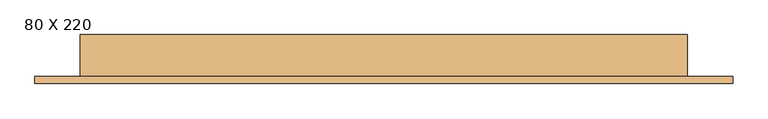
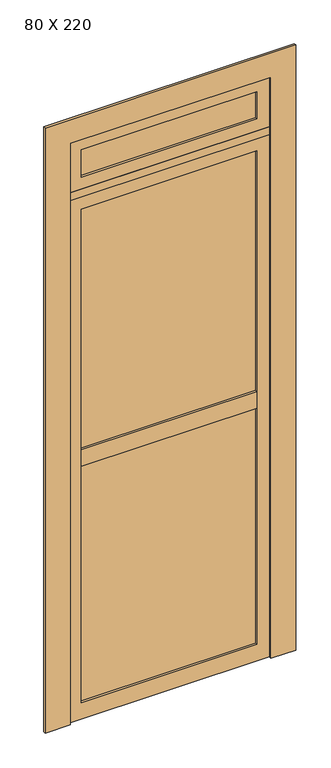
"""IFC4 building model written with IfcOpenShell, lengths in millimetres: door geometry, PORTA DE VIDRO COM ESQUADRIA DE ABRIR - 1 FOLHA + BANDEIRA FIXA - 1 FOLHA : 80 X 220."""

from ifc_helpers import new_model, si_unit, frame, origin, place, context, project, spatial, polyline, outline, extrude, faceted_brep, source, transform, mapped, element, save


def door_80_x_220_439348a2(model_context):
    return source(origin(), model_context, "Body", "SolidModel", [
        extrude(outline(polyline([(380.0, -59.5), (380.0, -65.5), (-320.0, -65.5), (-320.0, -59.5), (380.0, -59.5)])), frame((0.0, 0.0, 2285.0), z_axis=(0.0, 0.0, 1.0), x_axis=(1.0, 0.0, 0.0)), (0.0, 0.0, 1.0), 115.0),
        extrude(outline(polyline([(2450.0, 430.0), (2450.0, -370.0), (2235.0, -370.0), (2235.0, 430.0), (2450.0, 430.0)]), holes=[polyline([(2400.0, 380.0), (2285.0, 380.0), (2285.0, -320.0), (2400.0, -320.0), (2400.0, 380.0)])]), frame((0.0, -75.0, 0.0), z_axis=(0.0, 1.0, 0.0), x_axis=(0.0, 0.0, 1.0)), (0.0, 0.0, 1.0), 25.0),
        extrude(outline(polyline([(-320.0, -50.0), (380.0, -50.0), (380.0, -75.0), (-320.0, -75.0), (-320.0, -50.0)])), frame((0.0, 0.0, 1065.0), z_axis=(0.0, 0.0, 1.0), x_axis=(1.0, 0.0, 0.0)), (0.0, 0.0, 1.0), 70.0),
        extrude(outline(polyline([(380.0, -59.5), (380.0, -65.5), (-320.0, -65.5), (-320.0, -59.5), (380.0, -59.5)])), frame((0.0, 0.0, 70.0), z_axis=(0.0, 0.0, 1.0), x_axis=(1.0, 0.0, 0.0)), (0.0, 0.0, 1.0), 2080.0),
        extrude(outline(polyline([(2200.0, 430.0), (2200.0, -370.0), (0.0, -370.0), (0.0, 430.0), (2200.0, 430.0)]), holes=[polyline([(2150.0, 380.0), (70.0, 380.0), (70.0, -320.0), (2150.0, -320.0), (2150.0, 380.0)])]), frame((0.0, -75.0, 0.0), z_axis=(0.0, 1.0, 0.0), x_axis=(0.0, 0.0, 1.0)), (0.0, 0.0, 1.0), 25.0),
        extrude(outline(polyline([(2450.0, -370.0), (2450.0, 430.0), (0.0, 430.0), (0.0, 530.0), (2550.0, 530.0), (2550.0, -470.0), (0.0, -470.0), (0.0, -370.0), (2450.0, -370.0)])), frame((0.0, -85.0, 0.0), z_axis=(0.0, 1.0, 0.0), x_axis=(0.0, 0.0, 1.0)), (0.0, 0.0, 1.0), 10.0),
        faceted_brep([(-405.0, -15.0, 2485.0), (465.0, -15.0, 2485.0), (465.0, -15.0, 0.0), (420.0, -15.0, 0.0), (420.0, -15.0, 2190.0), (-360.0, -15.0, 2190.0), (-360.0, -15.0, 0.0), (-405.0, -15.0, 0.0), (-370.0, -15.0, 2450.0), (-370.0, -15.0, 2235.0), (430.0, -15.0, 2235.0), (430.0, -15.0, 2450.0), (465.0, -75.0, 2485.0), (465.0, -75.0, 0.0), (430.0, -75.0, 0.0), (430.0, -50.0, 0.0), (420.0, -50.0, 0.0), (420.0, -50.0, 2190.0), (-360.0, -50.0, 0.0), (-360.0, -50.0, 2190.0), (-370.0, -50.0, 0.0), (-370.0, -75.0, 0.0), (-405.0, -75.0, 0.0), (-405.0, -75.0, 2485.0), (-370.0, -75.0, 2200.0), (430.0, -75.0, 2200.0), (-370.0, -75.0, 2450.0), (430.0, -75.0, 2450.0), (430.0, -75.0, 2235.0), (-370.0, -75.0, 2235.0), (-370.0, -50.0, 2200.0), (430.0, -50.0, 2200.0)], [[[0, 1, 2, 3, 4, 5, 6, 7], [8, 9, 10, 11]], [[2, 1, 12, 13]], [[3, 2, 13, 14, 15, 16]], [[4, 3, 16, 17]], [[18, 6, 5, 19]], [[7, 6, 18, 20, 21, 22]], [[22, 23, 0, 7]], [[22, 21, 24, 25, 14, 13, 12, 23], [26, 27, 28, 29]], [[21, 20, 30, 24]], [[31, 15, 14, 25]], [[20, 18, 19, 17, 16, 15, 31, 30]], [[8, 26, 29, 9]], [[27, 11, 10, 28]], [[8, 11, 27, 26]], [[1, 0, 23, 12]], [[5, 4, 17, 19]], [[30, 31, 25, 24]], [[10, 9, 29, 28]]]),
    ])


if __name__ == "__main__":
    model = new_model("IFC4")
    model_context = context("Model", 3, world=origin())
    ifc_project = project(units=[si_unit("LENGTHUNIT", "METRE", prefix="MILLI")], contexts=[model_context])
    site = spatial("IfcSite", under=ifc_project)
    building = spatial("IfcBuilding", under=site)
    placement = place(None, origin())
    door_80_x_220_shape = door_80_x_220_439348a2(model_context)
    element("IfcDoor", 1, ObjectType="PORTA DE VIDRO COM ESQUADRIA DE ABRIR - 1 FOLHA + BANDEIRA FIXA - 1 FOLHA : 80 X 220", at=placement, inside=building, context=model_context, shape_type="MappedRepresentation", body=[
        mapped(door_80_x_220_shape, transform((0.0, 0.0, 0.0), x_axis=(1.0, 0.0, 0.0), y_axis=(0.0, 1.0, 0.0), z_axis=(0.0, 0.0, 1.0))),
    ])
    save(model, "model.ifc")
